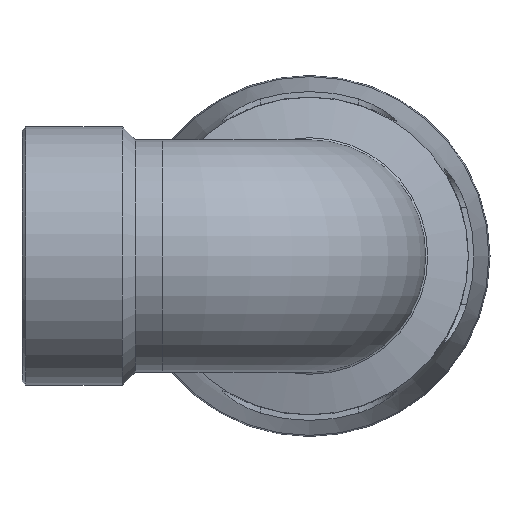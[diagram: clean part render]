
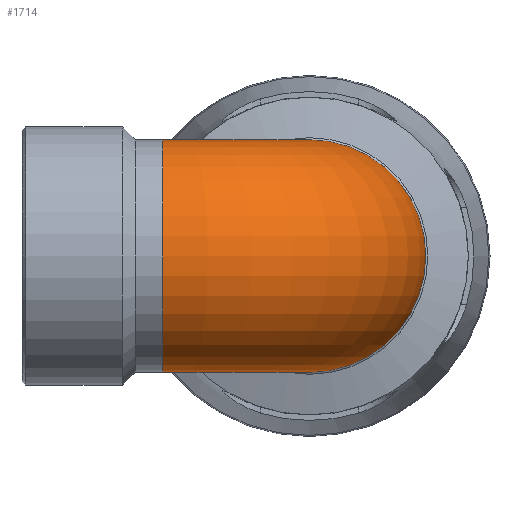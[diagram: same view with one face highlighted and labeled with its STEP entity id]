
A CAD part, left-side view. The second image highlights one B-rep face of the part: STEP entity #1714.
In plain terms, the highlighted toroidal (fillet/blend) face has major radius 41.84 mm and minor radius 33.144 mm.
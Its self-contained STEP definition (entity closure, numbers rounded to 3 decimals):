
#356=FACE_BOUND('',#509,.T.);
#384=FACE_OUTER_BOUND('',#508,.T.);
#508=EDGE_LOOP('',(#1160));
#509=EDGE_LOOP('',(#1161));
#615=CIRCLE('',#1814,33.144);
#621=CIRCLE('',#1824,33.144);
#710=VERTEX_POINT('',#2509);
#716=VERTEX_POINT('',#2525);
#869=EDGE_CURVE('',#710,#710,#615,.T.);
#875=EDGE_CURVE('',#716,#716,#621,.T.);
#1160=ORIENTED_EDGE('',*,*,#869,.F.);
#1161=ORIENTED_EDGE('',*,*,#875,.T.);
#1586=TOROIDAL_SURFACE('',#1868,41.84,33.144);
#1714=ADVANCED_FACE('',(#384,#356),#1586,.T.);
#1814=AXIS2_PLACEMENT_3D('',#2510,#2025,#2026);
#1824=AXIS2_PLACEMENT_3D('',#2526,#2045,#2046);
#1868=AXIS2_PLACEMENT_3D('',#2604,#2133,#2134);
#2025=DIRECTION('center_axis',(1.,0.,0.));
#2026=DIRECTION('ref_axis',(0.,-1.,0.));
#2045=DIRECTION('center_axis',(0.,-1.,0.));
#2046=DIRECTION('ref_axis',(-1.,0.,0.));
#2133=DIRECTION('center_axis',(0.,0.,1.));
#2134=DIRECTION('ref_axis',(1.,0.,0.));
#2509=CARTESIAN_POINT('',(41.84,33.144,0.));
#2510=CARTESIAN_POINT('Origin',(41.84,0.,0.));
#2525=CARTESIAN_POINT('',(33.144,41.84,0.));
#2526=CARTESIAN_POINT('Origin',(0.,41.84,0.));
#2604=CARTESIAN_POINT('Origin',(41.84,41.84,0.));
